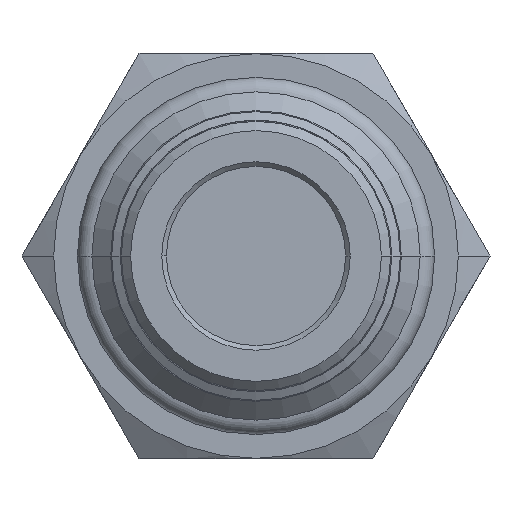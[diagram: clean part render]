
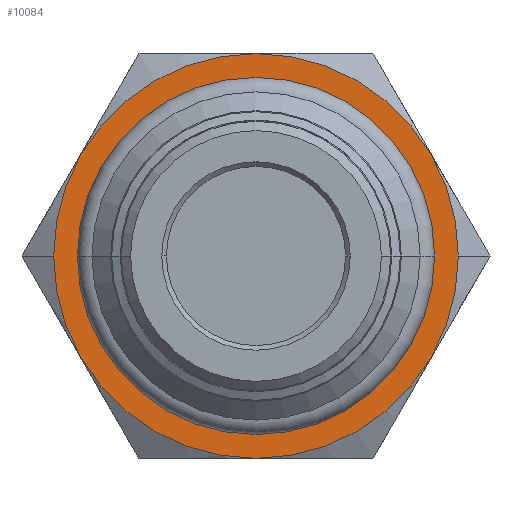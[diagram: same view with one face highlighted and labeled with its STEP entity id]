
A CAD part, front view. The second image highlights one B-rep face of the part: STEP entity #10084.
In plain terms, the highlighted planar face has unit normal (0, -1, 0).
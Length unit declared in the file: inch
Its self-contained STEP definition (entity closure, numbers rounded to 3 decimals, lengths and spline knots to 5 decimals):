
#952=CARTESIAN_POINT('',(0.,0.,0.));
#953=DIRECTION('',(0.,1.,0.));
#954=DIRECTION('',(1.,0.,0.));
#955=AXIS2_PLACEMENT_3D('',#952,#953,#954);
#960=CARTESIAN_POINT('',(0.,0.,0.));
#961=DIRECTION('',(0.,-1.,0.));
#962=DIRECTION('',(1.,0.,0.));
#963=AXIS2_PLACEMENT_3D('',#960,#961,#962);
#968=CARTESIAN_POINT('',(0.,0.,0.));
#969=DIRECTION('',(0.,-1.,0.));
#970=DIRECTION('',(1.,0.,0.));
#971=AXIS2_PLACEMENT_3D('',#968,#969,#970);
#976=CARTESIAN_POINT('',(0.,0.,0.));
#977=DIRECTION('',(0.,-1.,0.));
#978=DIRECTION('',(-1.,0.,0.));
#979=AXIS2_PLACEMENT_3D('',#976,#977,#978);
#9425=CARTESIAN_POINT('',(0.655,0.,0.));
#9427=VERTEX_POINT('',#9425);
#9441=CARTESIAN_POINT('',(-0.655,0.,0.));
#9443=VERTEX_POINT('',#9441);
#9712=CARTESIAN_POINT('',(0.53261,0.,0.));
#9713=CARTESIAN_POINT('',(-0.53261,0.,0.));
#9714=VERTEX_POINT('',#9712);
#9715=VERTEX_POINT('',#9713);
#10069=CARTESIAN_POINT('',(0.,0.,0.));
#10070=DIRECTION('',(0.,1.,0.));
#10071=DIRECTION('',(1.,0.,0.));
#10072=AXIS2_PLACEMENT_3D('',#10069,#10070,#10071);
#10073=PLANE('',#10072);
#10074=ORIENTED_EDGE('',*,*,#10064,.T.);
#10075=ORIENTED_EDGE('',*,*,#10048,.F.);
#10076=EDGE_LOOP('',(#10074,#10075));
#10077=FACE_OUTER_BOUND('',#10076,.F.);
#10079=ORIENTED_EDGE('',*,*,#10078,.T.);
#10081=ORIENTED_EDGE('',*,*,#10080,.T.);
#10082=EDGE_LOOP('',(#10079,#10081));
#10083=FACE_BOUND('',#10082,.F.);
#956=CIRCLE('',#955,0.655);
#964=CIRCLE('',#963,0.655);
#972=CIRCLE('',#971,0.53261);
#980=CIRCLE('',#979,0.53261);
#10048=EDGE_CURVE('',#9427,#9443,#964,.T.);
#10064=EDGE_CURVE('',#9427,#9443,#956,.T.);
#10078=EDGE_CURVE('',#9714,#9715,#972,.T.);
#10080=EDGE_CURVE('',#9715,#9714,#980,.T.);
#10084=ADVANCED_FACE('',(#10077,#10083),#10073,.F.);
